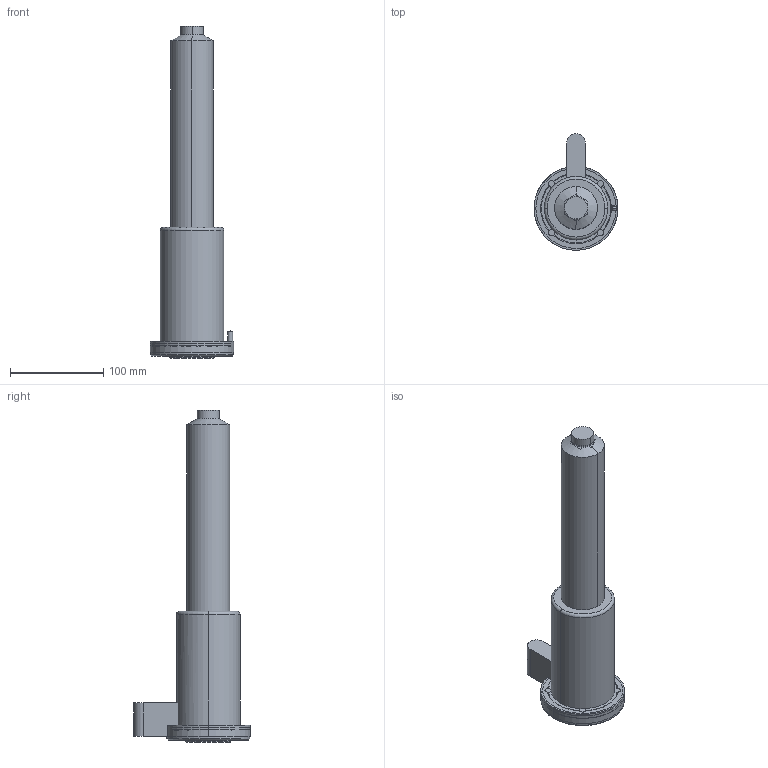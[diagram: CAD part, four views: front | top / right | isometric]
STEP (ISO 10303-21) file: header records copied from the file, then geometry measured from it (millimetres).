
FILE_DESCRIPTION (( 'STEP AP214' ), '1' );
FILE_NAME ('SR16_CLOSED_350_BAND.STEP', '2009-05-07T15:25:18', ( 'Synventive Molding Solutions' ), ( 'Synventive Molding Solutions' ), 'SwSTEP 2.0', 'SolidWorks 2008', '' );
FILE_SCHEMA (( 'AUTOMOTIVE_DESIGN' ));
Length unit declared in the file: millimetre
Products named in the file (1): SR16_CLOSED_350_BAND
Bounding box: 90 x 125 x 356 mm (x, y, z)
Volume: 1460028.3 mm3; surface area: 151450 mm2
Topology: 4 solids, 4 shells, 436 faces, 1148 edges, 721 vertices
Faces by surface type: cylinder 172, plane 155, torus 67, cone 34, sphere 4, bspline 4
Entity records: 19771 total; most frequent: CARTESIAN_POINT 3951, DIRECTION 2398, ORIENTED_EDGE 2284, EDGE_CURVE 1142, AXIS2_PLACEMENT_3D 941, VERTEX_POINT 721, LINE 516, VECTOR 516
